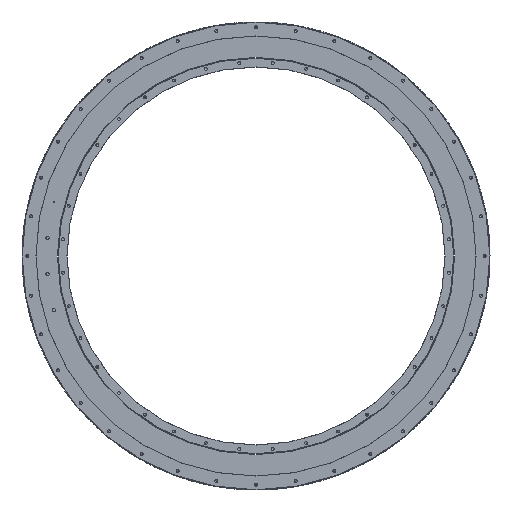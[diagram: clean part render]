
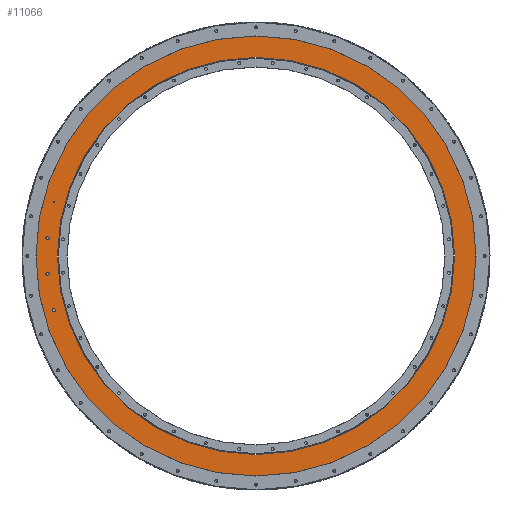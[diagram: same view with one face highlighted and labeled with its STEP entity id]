
A CAD part, left-side view. The second image highlights one B-rep face of the part: STEP entity #11066.
In plain terms, the highlighted planar face has unit normal (-1, 0, 0).
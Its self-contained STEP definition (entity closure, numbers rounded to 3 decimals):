
#10645=CARTESIAN_POINT('',(-120.,0.,0.));
#10646=DIRECTION('',(-1.,0.,0.));
#10647=DIRECTION('',(0.,1.,0.));
#10648=AXIS2_PLACEMENT_3D('',#10645,#10646,#10647);
#10650=CARTESIAN_POINT('',(-120.,0.,0.));
#10651=DIRECTION('',(1.,0.,0.));
#10652=DIRECTION('',(0.,1.,0.));
#10653=AXIS2_PLACEMENT_3D('',#10650,#10651,#10652);
#10655=CARTESIAN_POINT('',(-120.,0.,0.));
#10656=DIRECTION('',(-1.,0.,0.));
#10657=DIRECTION('',(0.,1.,0.));
#10658=AXIS2_PLACEMENT_3D('',#10655,#10656,#10657);
#10660=CARTESIAN_POINT('',(-120.,0.,0.));
#10661=DIRECTION('',(1.,0.,0.));
#10662=DIRECTION('',(0.,1.,0.));
#10663=AXIS2_PLACEMENT_3D('',#10660,#10661,#10662);
#10665=CARTESIAN_POINT('',(-120.,764.53,-204.855));
#10666=DIRECTION('',(-1.,0.,0.));
#10667=DIRECTION('',(0.,0.,1.));
#10668=AXIS2_PLACEMENT_3D('',#10665,#10666,#10667);
#10670=CARTESIAN_POINT('',(-120.,764.53,-204.855));
#10671=DIRECTION('',(-1.,0.,0.));
#10672=DIRECTION('',(0.,0.,-1.));
#10673=AXIS2_PLACEMENT_3D('',#10670,#10671,#10672);
#10675=CARTESIAN_POINT('',(-120.,764.53,204.855));
#10676=DIRECTION('',(-1.,0.,0.));
#10677=DIRECTION('',(0.,0.,1.));
#10678=AXIS2_PLACEMENT_3D('',#10675,#10676,#10677);
#10680=CARTESIAN_POINT('',(-120.,764.53,204.855));
#10681=DIRECTION('',(-1.,0.,0.));
#10682=DIRECTION('',(0.,0.,-1.));
#10683=AXIS2_PLACEMENT_3D('',#10680,#10681,#10682);
#10685=CARTESIAN_POINT('',(-120.,788.488,68.984));
#10686=DIRECTION('',(-1.,0.,0.));
#10687=DIRECTION('',(0.,0.,1.));
#10688=AXIS2_PLACEMENT_3D('',#10685,#10686,#10687);
#10690=CARTESIAN_POINT('',(-120.,788.488,68.984));
#10691=DIRECTION('',(-1.,0.,0.));
#10692=DIRECTION('',(0.,0.,-1.));
#10693=AXIS2_PLACEMENT_3D('',#10690,#10691,#10692);
#10695=CARTESIAN_POINT('',(-120.,788.488,-68.984));
#10696=DIRECTION('',(-1.,0.,0.));
#10697=DIRECTION('',(0.,0.,1.));
#10698=AXIS2_PLACEMENT_3D('',#10695,#10696,#10697);
#10700=CARTESIAN_POINT('',(-120.,788.488,-68.984));
#10701=DIRECTION('',(-1.,0.,0.));
#10702=DIRECTION('',(0.,0.,-1.));
#10703=AXIS2_PLACEMENT_3D('',#10700,#10701,#10702);
#10854=CARTESIAN_POINT('',(-120.,832.,0.));
#10856=VERTEX_POINT('',#10854);
#10857=CARTESIAN_POINT('',(-120.,751.,0.));
#10859=VERTEX_POINT('',#10857);
#10874=CARTESIAN_POINT('',(-120.,-832.,0.));
#10876=VERTEX_POINT('',#10874);
#10877=CARTESIAN_POINT('',(-120.,-751.,0.));
#10879=VERTEX_POINT('',#10877);
#10909=CARTESIAN_POINT('',(-120.,764.53,-198.855));
#10910=CARTESIAN_POINT('',(-120.,764.53,-210.855));
#10911=VERTEX_POINT('',#10909);
#10912=VERTEX_POINT('',#10910);
#10913=CARTESIAN_POINT('',(-120.,764.53,207.355));
#10914=CARTESIAN_POINT('',(-120.,764.53,202.355));
#10915=VERTEX_POINT('',#10913);
#10916=VERTEX_POINT('',#10914);
#10917=CARTESIAN_POINT('',(-120.,788.488,74.984));
#10918=CARTESIAN_POINT('',(-120.,788.488,62.984));
#10919=VERTEX_POINT('',#10917);
#10920=VERTEX_POINT('',#10918);
#10921=CARTESIAN_POINT('',(-120.,788.488,-62.984));
#10922=CARTESIAN_POINT('',(-120.,788.488,-74.984));
#10923=VERTEX_POINT('',#10921);
#10924=VERTEX_POINT('',#10922);
#11027=CARTESIAN_POINT('',(-120.,0.,0.));
#11028=DIRECTION('',(1.,0.,0.));
#11029=DIRECTION('',(0.,-1.,0.));
#11030=AXIS2_PLACEMENT_3D('',#11027,#11028,#11029);
#11031=PLANE('',#11030);
#11033=ORIENTED_EDGE('',*,*,#11032,.F.);
#11035=ORIENTED_EDGE('',*,*,#11034,.T.);
#11036=EDGE_LOOP('',(#11033,#11035));
#11037=FACE_OUTER_BOUND('',#11036,.F.);
#11038=ORIENTED_EDGE('',*,*,#11020,.F.);
#11039=ORIENTED_EDGE('',*,*,#11009,.T.);
#11040=EDGE_LOOP('',(#11038,#11039));
#11041=FACE_BOUND('',#11040,.F.);
#11043=ORIENTED_EDGE('',*,*,#11042,.T.);
#11045=ORIENTED_EDGE('',*,*,#11044,.T.);
#11046=EDGE_LOOP('',(#11043,#11045));
#11047=FACE_BOUND('',#11046,.F.);
#11049=ORIENTED_EDGE('',*,*,#11048,.T.);
#11051=ORIENTED_EDGE('',*,*,#11050,.T.);
#11052=EDGE_LOOP('',(#11049,#11051));
#11053=FACE_BOUND('',#11052,.F.);
#11055=ORIENTED_EDGE('',*,*,#11054,.T.);
#11057=ORIENTED_EDGE('',*,*,#11056,.T.);
#11058=EDGE_LOOP('',(#11055,#11057));
#11059=FACE_BOUND('',#11058,.F.);
#11061=ORIENTED_EDGE('',*,*,#11060,.T.);
#11063=ORIENTED_EDGE('',*,*,#11062,.T.);
#11064=EDGE_LOOP('',(#11061,#11063));
#11065=FACE_BOUND('',#11064,.F.);
#11066=ADVANCED_FACE('',(#11037,#11041,#11047,#11053,#11059,#11065),#11031,.F.);
#10649=CIRCLE('',#10648,751.);
#10654=CIRCLE('',#10653,751.);
#10659=CIRCLE('',#10658,832.);
#10664=CIRCLE('',#10663,832.);
#10669=CIRCLE('',#10668,6.);
#10674=CIRCLE('',#10673,6.);
#10679=CIRCLE('',#10678,2.5);
#10684=CIRCLE('',#10683,2.5);
#10689=CIRCLE('',#10688,6.);
#10694=CIRCLE('',#10693,6.);
#10699=CIRCLE('',#10698,6.);
#10704=CIRCLE('',#10703,6.);
#11009=EDGE_CURVE('',#10859,#10879,#10649,.T.);
#11020=EDGE_CURVE('',#10859,#10879,#10654,.T.);
#11032=EDGE_CURVE('',#10856,#10876,#10659,.T.);
#11034=EDGE_CURVE('',#10856,#10876,#10664,.T.);
#11042=EDGE_CURVE('',#10911,#10912,#10669,.T.);
#11044=EDGE_CURVE('',#10912,#10911,#10674,.T.);
#11048=EDGE_CURVE('',#10915,#10916,#10679,.T.);
#11050=EDGE_CURVE('',#10916,#10915,#10684,.T.);
#11054=EDGE_CURVE('',#10919,#10920,#10689,.T.);
#11056=EDGE_CURVE('',#10920,#10919,#10694,.T.);
#11060=EDGE_CURVE('',#10923,#10924,#10699,.T.);
#11062=EDGE_CURVE('',#10924,#10923,#10704,.T.);
